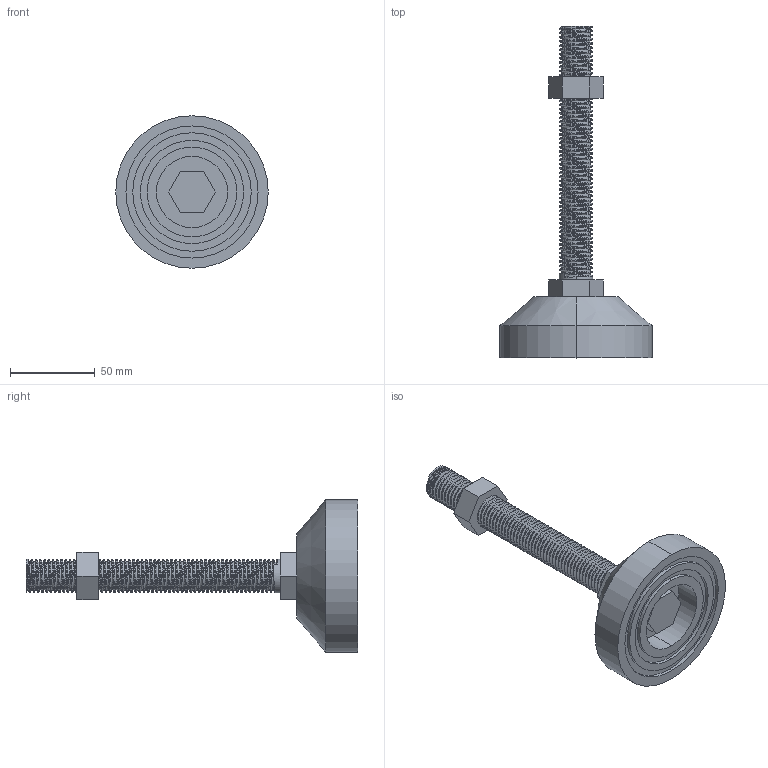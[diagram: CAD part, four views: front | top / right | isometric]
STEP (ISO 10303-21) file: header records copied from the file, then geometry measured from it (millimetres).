
FILE_DESCRIPTION (( 'STEP AP203' ), '1' );
FILE_NAME ('FS-107-20-L2.STEP', '2015-11-23T08:52:32', ( '' ), ( '' ), 'SwSTEP 2.0', 'SolidWorks 2014', '' );
FILE_SCHEMA (( 'CONFIG_CONTROL_DESIGN' ));
Length unit declared in the file: millimetre
Products named in the file (1): FS-107-20-L2
Bounding box: 90 x 196 x 90 mm (x, y, z)
Volume: 222759 mm3; surface area: 43306.2 mm2
Topology: 2 solids, 2 shells, 168 faces, 466 edges, 310 vertices
Faces by surface type: cylinder 131, plane 32, bspline 3, cone 2
Entity records: 12211 total; most frequent: CARTESIAN_POINT 8530, ORIENTED_EDGE 932, DIRECTION 587, EDGE_CURVE 466, VERTEX_POINT 310, AXIS2_PLACEMENT_3D 196, LINE 195, VECTOR 195
